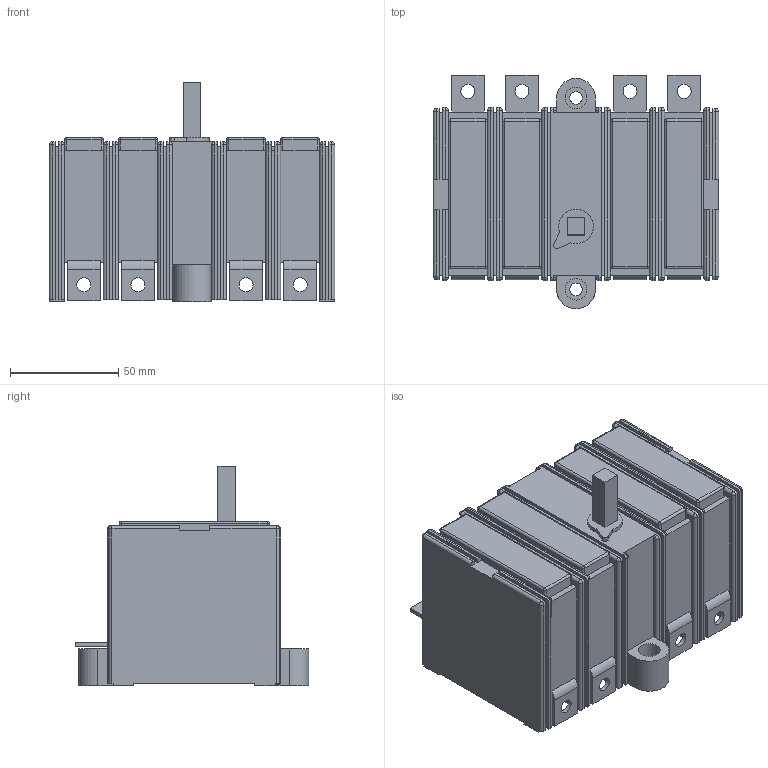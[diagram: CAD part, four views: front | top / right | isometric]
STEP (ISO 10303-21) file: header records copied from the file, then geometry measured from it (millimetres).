
FILE_DESCRIPTION(/* description */ (''),/* implementation_level */ '2;1');
FILE_NAME(/* name */ 'RA100 P3 NB, RA100 P4 B.stp',/* time_stamp */ '2021-08-17T12:46:22+02:00',/* author */ (''),/* organization */ (''),/* preprocessor_version */ 'ST-DEVELOPER v18.1',/* originating_system */ 'SIEMENS PLM Software NX 1965',/* authorisation */ '');
FILE_SCHEMA (('AUTOMOTIVE_DESIGN { 1 0 10303 214 3 1 1 1 }'));
Length unit declared in the file: millimetre
Products named in the file (1): RA100 P3 NB, RA100 P4 B_stp
Bounding box: 132 x 108 x 101.5 mm (x, y, z)
Volume: 660030.9 mm3; surface area: 77873.4 mm2
Topology: 1 solids, 1 shells, 379 faces, 1021 edges, 608 vertices
Faces by surface type: plane 217, cylinder 122, sphere 39, bspline 1
Full cylindrical faces by diameter (mm): 5.8 x2, 6.5 x8, 10 x2
Entity records: 11390 total; most frequent: CARTESIAN_POINT 1995, DIRECTION 1964, ORIENTED_EDGE 1934, EDGE_CURVE 967, LINE 722, VECTOR 722, AXIS2_PLACEMENT_3D 621, VERTEX_POINT 606
